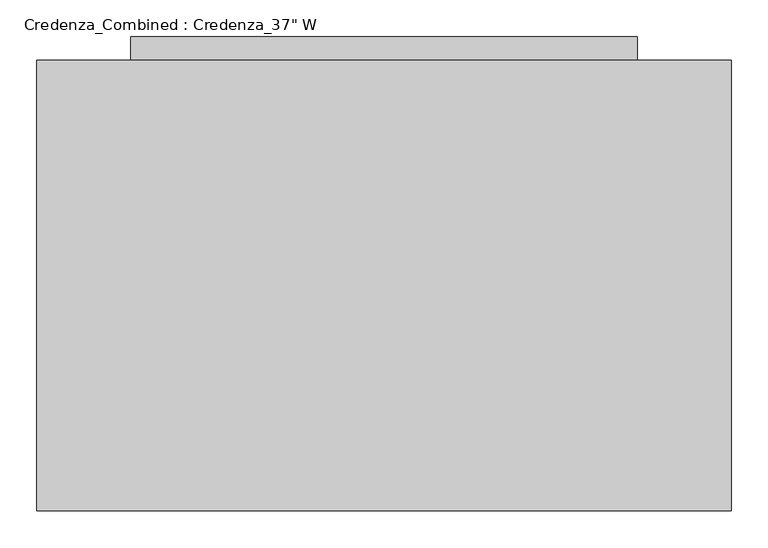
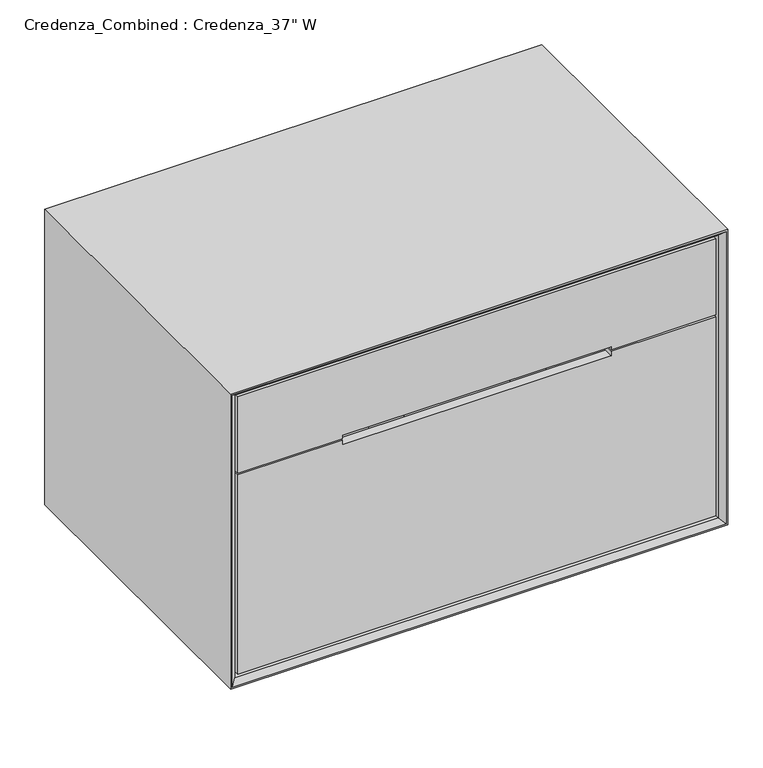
"""IFC4 building model written with IfcOpenShell, lengths in millimetres: furniture geometry."""

from ifc_helpers import new_model, si_unit, frame, origin, origin_with_axes, place, context, project, spatial, polyline, outline, extrude, faceted_brep, source, transform, mapped, element, save


def furniture_3a8b5d28(model_context):
    return source(origin(), model_context, "Body", "SolidModel", [
        extrude(outline(polyline([(812.8, 609.6), (812.8, 241.3), (127.0, 241.3), (127.0, 609.6), (812.8, 609.6)])), origin_with_axes(), (0.0, 0.0, 1.0), 87.3125),
        extrude(outline(polyline([(812.8, 641.35), (812.8, 609.6), (127.0, 609.6), (127.0, 641.35), (812.8, 641.35)])), origin_with_axes(), (0.0, 0.0, 1.0), 647.7),
        extrude(outline(polyline([(665.1625, 927.1), (665.1625, 12.7), (100.0125, 12.7), (100.0125, 927.1), (665.1625, 927.1)]), holes=[polyline([(646.1125, 31.75), (646.1125, 908.05), (119.0625, 908.05), (119.0625, 31.75), (646.1125, 31.75)])]), frame((0.0, 31.75, 0.0), z_axis=(0.0, 1.0, 0.0), x_axis=(0.0, 0.0, 1.0)), (0.0, 0.0, 1.0), 577.85),
        faceted_brep([(927.1, 9.525, 665.1625), (927.1, 609.6, 665.1625), (927.1, 609.6, 100.0125), (927.1, 9.525, 100.0125), (936.625, 0.0, 674.6875), (936.625, 0.0, 90.4875), (939.8, 609.6, 677.8625), (939.8, 0.0, 677.8625), (939.8, 0.0, 87.3125), (939.8, 609.6, 87.3125), (12.7, 609.6, 100.0125), (12.7, 9.525, 100.0125), (3.175, 0.0, 90.4875), (0.0, 0.0, 87.3125), (0.0, 609.6, 87.3125), (12.7, 609.6, 665.1625), (12.7, 9.525, 665.1625), (3.175, 0.0, 674.6875), (0.0, 0.0, 677.8625), (0.0, 609.6, 677.8625)], [[[0, 1, 2, 3]], [[4, 0, 3, 5]], [[6, 7, 8, 9]], [[3, 2, 10, 11]], [[5, 3, 11, 12]], [[9, 8, 13, 14]], [[11, 10, 15, 16]], [[12, 11, 16, 17]], [[14, 13, 18, 19]], [[9, 14, 19, 6], [1, 15, 10, 2]], [[16, 15, 1, 0]], [[17, 16, 0, 4]], [[7, 18, 13, 8], [5, 12, 17, 4]], [[19, 18, 7, 6]]]),
        faceted_brep([(662.1419729, 397.0019907, 124.61875), (662.1419729, 98.2980093, 124.61875), (813.4392771, 98.2980093, 124.61875), (813.4392771, 397.0019907, 124.61875), (819.4652021, 403.0279157, 118.26875), (819.4652021, 92.2720843, 118.26875), (656.1160479, 92.2720843, 118.26875), (656.1160479, 403.0279157, 118.26875), (852.090625, 435.6533385, 492.91875), (623.490625, 435.6533385, 492.91875), (623.490625, 435.6533385, 499.26875), (852.090625, 435.6533385, 499.26875), (636.190625, 422.9533385, 492.91875), (839.390625, 422.9533385, 492.91875), (833.3647, 416.9274135, 499.26875), (642.21655, 416.9274135, 499.26875), (623.490625, 59.6466615, 492.91875), (623.490625, 59.6466615, 499.26875), (636.190625, 72.3466615, 492.91875), (642.21655, 78.3725865, 499.26875), (852.090625, 59.6466615, 492.91875), (852.090625, 59.6466615, 499.26875), (839.390625, 72.3466615, 492.91875), (833.3647, 78.3725865, 499.26875)], [[[0, 1, 2, 3]], [[4, 5, 6, 7]], [[8, 9, 10, 11]], [[4, 7, 12, 13]], [[14, 15, 0, 3]], [[9, 16, 17, 10]], [[7, 6, 18, 12]], [[15, 19, 1, 0]], [[16, 20, 21, 17]], [[6, 5, 22, 18]], [[19, 23, 2, 1]], [[11, 21, 20, 8]], [[8, 20, 16, 9], [12, 18, 22, 13]], [[13, 22, 5, 4]], [[3, 2, 23, 14]], [[10, 17, 21, 11], [14, 23, 19, 15]]]),
        faceted_brep([(278.4517771, 397.0019907, 124.61875), (127.1544729, 397.0019907, 124.61875), (127.1544729, 98.2980093, 124.61875), (278.4517771, 98.2980093, 124.61875), (121.1285479, 403.0279157, 118.26875), (284.4777021, 403.0279157, 118.26875), (284.4777021, 92.2720843, 118.26875), (121.1285479, 92.2720843, 118.26875), (88.503125, 435.6533385, 492.91875), (88.503125, 435.6533385, 499.26875), (317.103125, 435.6533385, 499.26875), (317.103125, 435.6533385, 492.91875), (101.203125, 422.9533385, 492.91875), (304.403125, 422.9533385, 492.91875), (107.22905, 416.9274135, 499.26875), (298.3772, 416.9274135, 499.26875), (317.103125, 59.6466615, 499.26875), (317.103125, 59.6466615, 492.91875), (304.403125, 72.3466615, 492.91875), (298.3772, 78.3725865, 499.26875), (88.503125, 59.6466615, 499.26875), (88.503125, 59.6466615, 492.91875), (101.203125, 72.3466615, 492.91875), (107.22905, 78.3725865, 499.26875)], [[[0, 1, 2, 3]], [[4, 5, 6, 7]], [[8, 9, 10, 11]], [[4, 12, 13, 5]], [[14, 1, 0, 15]], [[11, 10, 16, 17]], [[5, 13, 18, 6]], [[15, 0, 3, 19]], [[17, 16, 20, 21]], [[6, 18, 22, 7]], [[19, 3, 2, 23]], [[9, 8, 21, 20]], [[8, 11, 17, 21], [13, 12, 22, 18]], [[12, 4, 7, 22]], [[1, 14, 23, 2]], [[10, 9, 20, 16], [14, 15, 19, 23]]]),
        faceted_brep([(546.3424021, 397.0019907, 124.61875), (395.0450979, 397.0019907, 124.61875), (395.0450979, 98.2980093, 124.61875), (546.3424021, 98.2980093, 124.61875), (389.0191729, 403.0279157, 118.26875), (552.3683271, 403.0279157, 118.26875), (552.3683271, 92.2720843, 118.26875), (389.0191729, 92.2720843, 118.26875), (356.39375, 435.6533385, 492.91875), (356.39375, 435.6533385, 499.26875), (584.99375, 435.6533385, 499.26875), (584.99375, 435.6533385, 492.91875), (369.09375, 422.9533385, 492.91875), (572.29375, 422.9533385, 492.91875), (375.119675, 416.9274135, 499.26875), (566.267825, 416.9274135, 499.26875), (584.99375, 59.6466615, 499.26875), (584.99375, 59.6466615, 492.91875), (572.29375, 72.3466615, 492.91875), (566.267825, 78.3725865, 499.26875), (356.39375, 59.6466615, 499.26875), (356.39375, 59.6466615, 492.91875), (369.09375, 72.3466615, 492.91875), (375.119675, 78.3725865, 499.26875)], [[[0, 1, 2, 3]], [[4, 5, 6, 7]], [[8, 9, 10, 11]], [[4, 12, 13, 5]], [[14, 1, 0, 15]], [[11, 10, 16, 17]], [[5, 13, 18, 6]], [[15, 0, 3, 19]], [[17, 16, 20, 21]], [[6, 18, 22, 7]], [[19, 3, 2, 23]], [[9, 8, 21, 20]], [[8, 11, 17, 21], [13, 12, 22, 18]], [[12, 4, 7, 22]], [[1, 14, 23, 2]], [[10, 9, 20, 16], [14, 15, 19, 23]]]),
        faceted_brep([(904.875, 466.725, 478.63125), (36.5125, 466.725, 478.63125), (36.5125, 28.575, 478.63125), (904.875, 28.575, 478.63125), (49.2125, 454.025, 478.63125), (890.5875, 454.025, 478.63125), (890.5875, 41.275, 478.63125), (49.2125, 41.275, 478.63125), (904.875, 466.725, 105.56875), (36.5125, 466.725, 105.56875), (36.5125, 28.575, 105.56875), (904.875, 28.575, 105.56875), (49.2125, 454.025, 118.26875), (890.5875, 454.025, 118.26875), (890.5875, 41.275, 118.26875), (49.2125, 41.275, 118.26875)], [[[0, 1, 2, 3], [4, 5, 6, 7]], [[1, 0, 8, 9]], [[2, 1, 9, 10]], [[3, 2, 10, 11]], [[8, 0, 3, 11]], [[5, 4, 12, 13]], [[6, 5, 13, 14]], [[7, 6, 14, 15]], [[4, 7, 15, 12]], [[13, 12, 15, 14]], [[8, 11, 10, 9]]]),
        extrude(outline(polyline([(504.03125, 19.05), (105.56875, 19.05), (105.56875, 922.3375), (504.03125, 922.3375), (504.03125, 724.69375), (494.7030946, 724.69375), (494.7030946, 216.69375), (504.03125, 216.69375), (504.03125, 19.05)])), frame((0.0, 9.525, 0.0), z_axis=(0.0, 1.0, 0.0), x_axis=(0.0, 0.0, 1.0)), (0.0, 0.0, 1.0), 19.05),
        extrude(outline(polyline([(659.60625, 922.3375), (659.60625, 19.05), (507.20625, 19.05), (507.20625, 216.69375), (513.3594054, 216.69375), (513.3594054, 724.69375), (507.20625, 724.69375), (507.20625, 922.3375), (659.60625, 922.3375)])), frame((0.0, 9.525, 0.0), z_axis=(0.0, 1.0, 0.0), x_axis=(0.0, 0.0, 1.0)), (0.0, 0.0, 1.0), 19.05),
    ])


if __name__ == "__main__":
    model = new_model("IFC4")
    model_context = context("Model", 3, world=origin())
    ifc_project = project(units=[si_unit("LENGTHUNIT", "METRE", prefix="MILLI")], contexts=[model_context])
    site = spatial("IfcSite", under=ifc_project)
    building = spatial("IfcBuilding", under=site)
    placement = place(None, origin())
    furniture_shape = furniture_3a8b5d28(model_context)
    element("IfcFurniture", 1, ObjectType="Credenza_Combined : Credenza_37\" W", at=placement, inside=building, context=model_context, shape_type="MappedRepresentation", body=[
        mapped(furniture_shape, transform((0.0, 0.0, 0.0), x_axis=(1.0, 0.0, 0.0), y_axis=(0.0, 1.0, 0.0), z_axis=(0.0, 0.0, 1.0))),
    ])
    save(model, "model.ifc")
